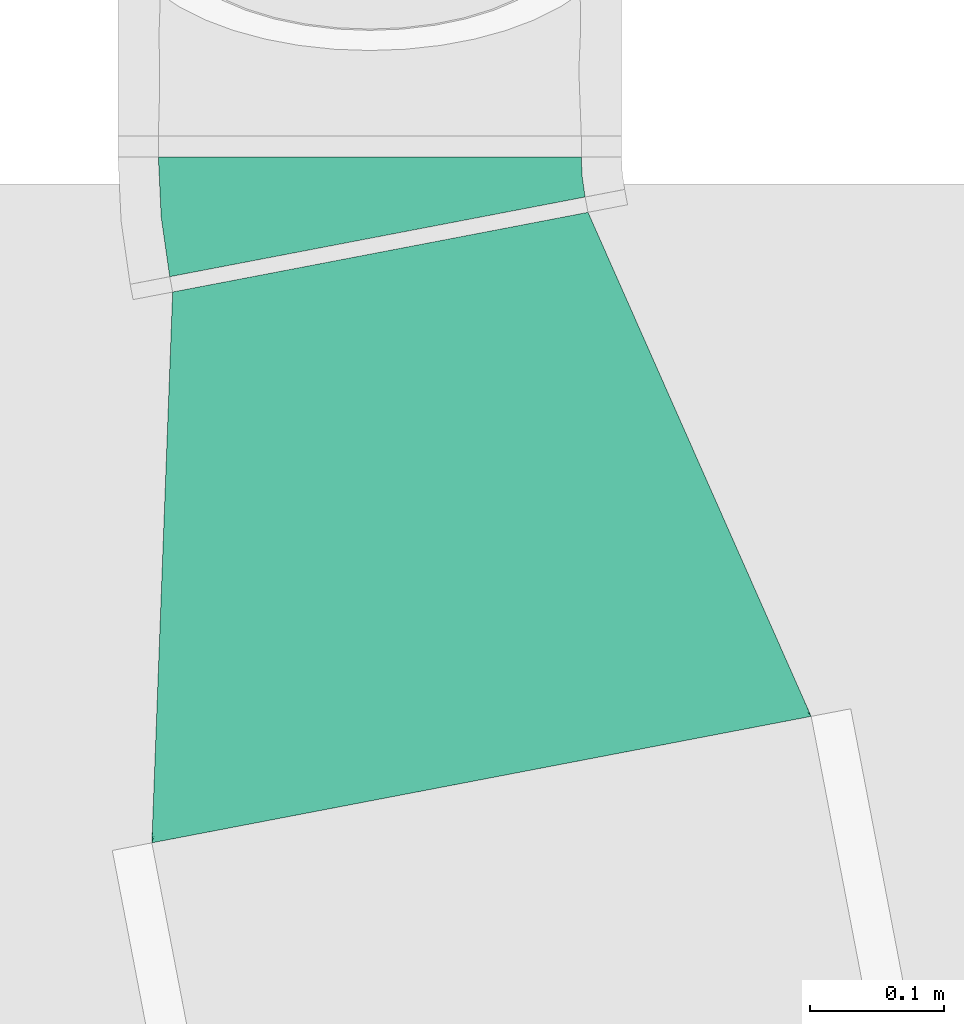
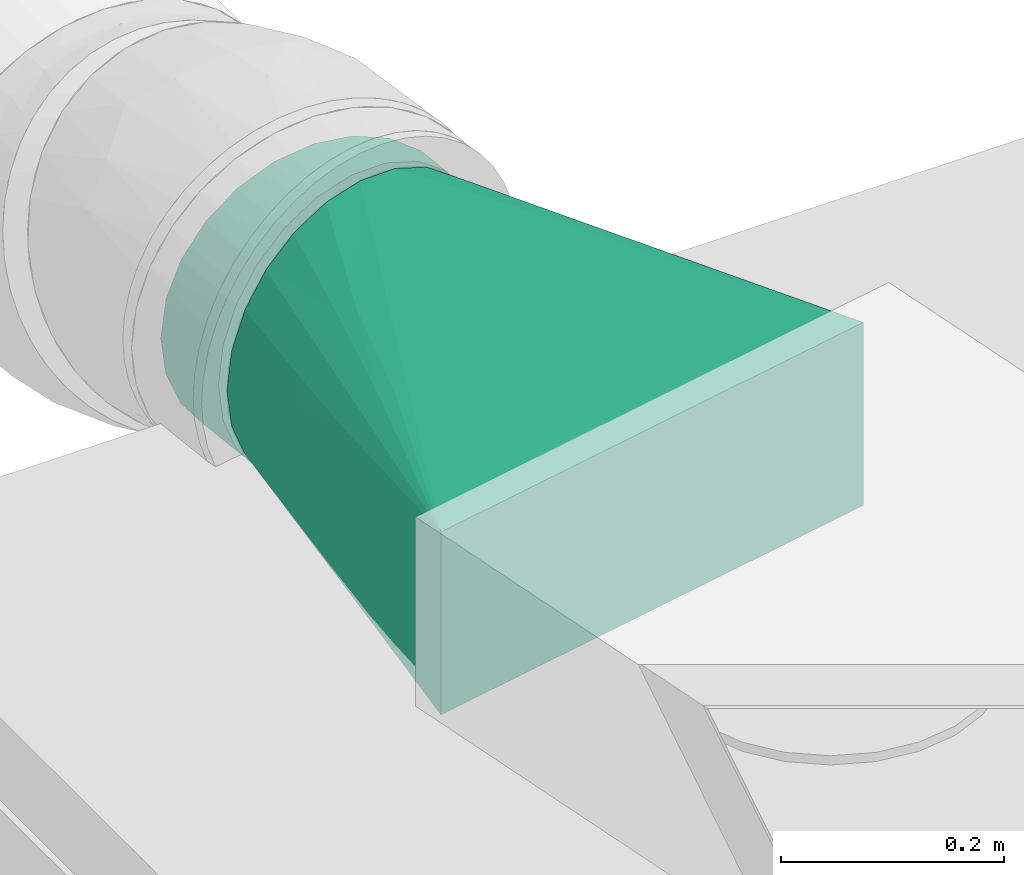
# One storey, part 14 of 21: 2 flow fittings.
"""IFC2X3 building model written with IfcOpenShell, lengths in millimetres."""

from ifc_helpers import new_model, entity, si_unit, converted_unit, derived_unit, direction, frame, origin_with_axes, place, context, subcontext, project, spatial, open_shell, surface_model, source, transform, mapped, type_object, element, save


model = new_model("IFC2X3")

# Units and contexts
model_context = context("Model", 3, precision=0.01, world=frame((0.0, 4.29681676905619e-09, 0.0)), true_north=direction((4.01073788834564e-13, 1.0)))
plan_context = context("Plan", 3, precision=0.01, world=frame((0.0, 4.29681676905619e-09, 0.0)), true_north=direction((4.01073788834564e-13, 1.0)))
body_context = subcontext(model_context, "Body", "Model", "MODEL_VIEW")
ifc_project = project(units=[converted_unit("PLANEANGLEUNIT", "DEGREE", entity("IfcPositiveLengthMeasure", 0.0174532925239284), si_unit("PLANEANGLEUNIT", "RADIAN"), dimensions=[0, 0, 0, 0, 0, 0, 0]), si_unit("AREAUNIT", "SQUARE_METRE"), si_unit("LENGTHUNIT", "METRE", prefix="MILLI"), si_unit("MASSUNIT", "GRAM", prefix="KILO"), si_unit("POWERUNIT", "WATT"), si_unit("PRESSUREUNIT", "PASCAL"), si_unit("FORCEUNIT", "NEWTON", prefix="KILO"), si_unit("ELECTRICVOLTAGEUNIT", "VOLT"), si_unit("ELECTRICCURRENTUNIT", "AMPERE"), si_unit("THERMODYNAMICTEMPERATUREUNIT", "DEGREE_CELSIUS"), si_unit("TIMEUNIT", "SECOND"), si_unit("VOLUMEUNIT", "CUBIC_METRE"), derived_unit("LINEARVELOCITYUNIT", [(si_unit("LENGTHUNIT", "METRE"), 1), (si_unit("TIMEUNIT", "SECOND"), -1)]), derived_unit("VOLUMETRICFLOWRATEUNIT", [(si_unit("VOLUMEUNIT", "CUBIC_METRE"), 1), (si_unit("TIMEUNIT", "SECOND"), -1)]), derived_unit("THERMALTRANSMITTANCEUNIT", [(si_unit("POWERUNIT", "WATT"), 1), (si_unit("THERMODYNAMICTEMPERATUREUNIT", "KELVIN"), -1), (si_unit("AREAUNIT", "SQUARE_METRE"), -1)]), derived_unit("SOUNDPRESSUREUNIT", [(si_unit("PRESSUREUNIT", "PASCAL"), 1)])], contexts=[model_context, plan_context])

# Site, building, storey
site_placement = place(None, frame((0.0, -4.29681676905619e-09, 0.0), z_axis=(0.0, 0.0, 1.0), x_axis=(1.0, 0.0, 0.0)))
site = spatial("IfcSite", under=ifc_project, at=site_placement, Name="ENGM", CompositionType="ELEMENT")
building_placement = place(site_placement, frame((0.0, 4.29681676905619e-09, 0.0), z_axis=(0.0, 0.0, 1.0), x_axis=(1.0, 0.0, 0.0)))
building = spatial("IfcBuilding", under=site, at=building_placement, Name="TI", CompositionType="ELEMENT")
storey_placement = place(building_placement, frame((0.0, 0.0, 210900.0), z_axis=(0.0, 0.0, 1.0), x_axis=(1.0, 0.0, 0.0)))
storey = spatial("IfcBuildingStorey", under=building, at=storey_placement, Name="Nivå F", CompositionType="ELEMENT", Elevation=210900.0)

# Flow fittings
duct_fitting_type_1 = type_object("IfcDuctFittingType", Name="magicirc_multi_shape_trans_001", PredefinedType="TRANSITION")
shared_shape_1 = source(origin_with_axes(), body_context, "Body", "SurfaceModel", [
    surface_model("IfcShellBasedSurfaceModel", [(400.0, -40.764, 152.14631), (400.0, -40.764, -152.12033), (400.0, 0.0, 157.51299), (400.0, -78.75, 136.41199), (400.0, -111.36932, 111.38231), (400.0, -111.36932, -111.35633), (400.0, -136.39901, 78.76299), (400.0, -152.13332, -40.75101), (400.0, -152.13332, 40.77699), (400.0, 78.75, 136.41199), (400.0, 40.764, 152.14631), (400.0, 40.764, -152.12033), (400.0, 111.36932, 111.38231), (400.0, 136.39901, -78.73701), (400.0, 136.39901, 78.76299), (400.0, 152.13332, 40.77699), (400.0, -157.5, 0.01299), (400.0, -136.39901, -78.73701), (400.0, -78.75, -136.38602), (400.0, 0.0, -157.48701), (400.0, 152.13332, -40.75101), (400.0, 157.5, 0.01299), (400.0, 78.75, -136.38602), (400.0, 111.36932, -111.35633), (0.0, -250.0, 100.0), (0.0, 250.0, 100.0), (0.0, 250.0, -100.0), (0.0, -250.0, -100.0), (292.18825, -122.15047, 128.13926), (199.05417, -181.01246, 105.66424), (185.05693, -166.81867, 118.96889), (276.97564, -110.65744, 134.46501), (276.97563, -180.59016, 64.53231), (108.09139, -182.44288, 115.54165), (162.13711, -162.82596, 121.72196), (216.18279, -114.88577, 131.0833), (216.18283, -200.00772, 45.96132), (162.13707, -210.91529, 73.63265), (108.09138, -225.00387, 72.98067), (185.05693, -199.56654, 86.22102), (292.18823, -168.55919, 81.73055), (292.18845, -168.55917, -81.7115), (199.05417, -181.01246, -105.65131), (185.05722, -199.56645, -86.20898), (276.9757, -180.59014, -64.51431), (276.97568, -110.65742, -134.44703), (108.09148, -225.00385, -72.97362), (162.13725, -210.91523, -73.6221), (216.18295, -200.00769, -45.94724), (216.18293, -114.88567, -131.06928), (162.13721, -162.82591, -121.71144), (108.09147, -182.44284, -115.53464), (185.05722, -166.81854, -118.9569), (292.18845, -122.15032, -128.12035), (292.18845, 122.15032, -128.12034), (199.05417, 181.01246, -105.65131), (185.05722, 166.81854, -118.9569), (276.9757, 110.65742, -134.44704), (276.97568, 180.59014, -64.51431), (108.09148, 182.44282, -115.53464), (162.13725, 162.82589, -121.71144), (216.18295, 114.88565, -131.06928), (216.18293, 200.0077, -45.94725), (162.13721, 210.91525, -73.6221), (108.09147, 225.00385, -72.97363), (185.05722, 199.56645, -86.20898), (292.18845, 168.55917, -81.7115), (292.18825, 168.55919, 81.73055), (199.05417, 181.01246, 105.66424), (185.05693, 199.56653, 86.22102), (276.97564, 180.59016, 64.53231), (276.97563, 110.65745, 134.46501), (108.09139, 225.00387, 72.98066), (162.13711, 210.91527, 73.63265), (216.18279, 200.00772, 45.96133), (216.18275, 114.88578, 131.08329), (162.13707, 162.82598, 121.72195), (108.09138, 182.4429, 115.54165), (185.05693, 166.81867, 118.96889), (292.18823, 122.15047, 128.13927)], [open_shell([[[0, 1, 2]], [[1, 0, 3]], [[3, 4, 5]], [[6, 5, 4]], [[7, 6, 8]], [[2, 9, 10]], [[9, 2, 11]], [[12, 13, 14]], [[15, 14, 13]], [[13, 12, 9]], [[8, 16, 7]], [[17, 5, 6]], [[18, 3, 5]], [[19, 2, 1]], [[3, 18, 1]], [[2, 19, 11]], [[15, 20, 21]], [[15, 13, 20]], [[9, 22, 23]], [[13, 9, 23]], [[22, 9, 11]], [[6, 7, 17]], [[24, 25, 26]], [[26, 27, 24]], [[28, 4, 3]], [[29, 30, 24]], [[28, 0, 31]], [[31, 0, 2]], [[16, 8, 32]], [[33, 34, 35]], [[31, 35, 34]], [[2, 35, 31]], [[24, 34, 33]], [[36, 32, 37]], [[0, 28, 3]], [[36, 16, 32]], [[31, 34, 30]], [[38, 37, 24]], [[32, 39, 37]], [[40, 4, 29]], [[36, 37, 38]], [[24, 30, 34]], [[40, 39, 32]], [[32, 8, 40]], [[39, 29, 24]], [[37, 39, 24]], [[31, 30, 28]], [[40, 8, 6]], [[30, 29, 28]], [[4, 28, 29]], [[4, 40, 6]], [[29, 39, 40]], [[24, 27, 16]], [[41, 5, 17]], [[42, 43, 27]], [[41, 7, 44]], [[44, 7, 16]], [[19, 1, 45]], [[46, 47, 48]], [[44, 48, 47]], [[16, 48, 44]], [[27, 47, 46]], [[49, 45, 50]], [[7, 41, 17]], [[49, 19, 45]], [[44, 47, 43]], [[51, 50, 27]], [[45, 52, 50]], [[53, 5, 42]], [[49, 50, 51]], [[27, 43, 47]], [[53, 52, 45]], [[45, 1, 53]], [[52, 42, 27]], [[50, 52, 27]], [[44, 43, 41]], [[53, 1, 18]], [[43, 42, 41]], [[5, 41, 42]], [[5, 53, 18]], [[42, 52, 53]], [[27, 26, 19]], [[54, 23, 22]], [[55, 56, 26]], [[54, 11, 57]], [[57, 11, 19]], [[21, 20, 58]], [[59, 60, 61]], [[57, 61, 60]], [[19, 61, 57]], [[26, 60, 59]], [[62, 58, 63]], [[11, 54, 22]], [[62, 21, 58]], [[57, 60, 56]], [[64, 63, 26]], [[58, 65, 63]], [[66, 23, 55]], [[62, 63, 64]], [[26, 56, 60]], [[66, 65, 58]], [[58, 20, 66]], [[65, 55, 26]], [[63, 65, 26]], [[57, 56, 54]], [[66, 20, 13]], [[56, 55, 54]], [[23, 54, 55]], [[23, 66, 13]], [[55, 65, 66]], [[26, 25, 21]], [[67, 12, 14]], [[68, 69, 25]], [[67, 15, 70]], [[70, 15, 21]], [[2, 10, 71]], [[72, 73, 74]], [[70, 74, 73]], [[21, 74, 70]], [[25, 73, 72]], [[75, 71, 76]], [[15, 67, 14]], [[75, 2, 71]], [[70, 73, 69]], [[77, 76, 25]], [[71, 78, 76]], [[79, 12, 68]], [[75, 76, 77]], [[25, 69, 73]], [[79, 78, 71]], [[71, 10, 79]], [[78, 68, 25]], [[76, 78, 25]], [[70, 69, 67]], [[79, 10, 9]], [[69, 68, 67]], [[12, 67, 68]], [[12, 79, 9]], [[68, 78, 79]], [[25, 24, 2]]])]),
])
flow_fitting_1_placement = place(storey_placement, frame((607402.98574, 690791.51807, 2556.76615000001), z_axis=(5.0821976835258e-21, 1.5999999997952e-05, 0.999999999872), x_axis=(-0.18840604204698, 0.982091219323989, -1.57134595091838e-05)))
element("IfcFlowFitting", 1, at=flow_fitting_1_placement, inside=storey, type_object=duct_fitting_type_1, Name="magicirc_multi_shape_trans_001", context=body_context, shape_type="MappedRepresentation", body=[
    mapped(shared_shape_1, transform((0.0, 0.0, 0.0), scale=1.0)),
])
duct_fitting_type_2 = type_object("IfcDuctFittingType", Name="magicirc_elbow_full_radius_001", PredefinedType="BEND")
shared_shape_2 = source(origin_with_axes(), body_context, "Body", "SurfaceModel", [
    surface_model("IfcShellBasedSurfaceModel", [(-29.94205, 78.75, -136.39901), (-29.94205, 40.764, -152.13332), (-29.94205, 0.0, -157.5), (-29.94205, 136.39901, -78.75), (-29.94205, -40.764, -152.13332), (-29.94205, 111.36932, -111.36932), (-29.94205, -157.5, 0.0), (-29.94205, -152.13332, 40.764), (-29.94205, -111.36932, -111.36932), (-29.94205, -152.13332, -40.764), (-29.94205, -78.75, -136.39901), (-29.94205, -136.39901, -78.75), (-29.94205, 152.13332, -40.764), (-29.94205, 157.5, 0.0), (-29.94205, 152.13332, 40.764), (-29.94205, 136.39901, 78.75), (-29.94205, 111.36932, 111.36932), (-29.94205, 78.75, 136.39901), (-29.94205, 40.764, 152.13332), (-29.94205, -111.36932, 111.36932), (-29.94205, -78.75, 136.39901), (-29.94205, -136.39901, 78.75), (-29.94205, 0.0, 157.5), (-29.94205, -40.764, 152.13332), (29.40582, 5.64126, -157.5), (21.72564, 45.67523, -152.13332), (14.56886, 82.98095, -136.39901), (37.086, -34.39271, -152.13332), (3.70744, 139.59752, -78.75), (0.743, 155.05006, -40.764), (8.42318, 115.01609, -111.36932), (44.24279, -71.69843, -136.39901), (59.07976, -149.03811, 0.0), (50.38847, -103.73358, -111.36932), (58.06864, -143.76754, -40.764), (55.10421, -128.31501, -78.75), (58.06864, -143.76754, 40.764), (8.42318, 115.01609, 111.36932), (-0.26811, 160.32063, 0.0), (0.743, 155.05006, 40.764), (3.70744, 139.59752, 78.75), (14.56886, 82.98095, 136.39901), (21.72564, 45.67523, 152.13332), (44.24279, -71.69843, 136.39901), (55.10421, -128.31501, 78.75), (50.38847, -103.73358, 111.36932), (29.40582, 5.64126, 157.5), (37.086, -34.39271, 152.13332), (-15.0382, 158.20675, 0.0), (14.76949, -155.37978, 0.0)], [open_shell([[[0, 1, 2]], [[3, 0, 2]], [[4, 3, 2]], [[5, 0, 3]], [[3, 6, 7]], [[8, 9, 10]], [[4, 10, 6]], [[11, 9, 8]], [[6, 10, 9]], [[6, 3, 4]], [[7, 12, 3]], [[13, 7, 14]], [[15, 14, 16]], [[17, 16, 7]], [[7, 16, 14]], [[7, 18, 17]], [[19, 20, 21]], [[7, 21, 22]], [[23, 22, 20]], [[21, 20, 22]], [[22, 18, 7]], [[12, 7, 13]], [[24, 25, 26]], [[27, 24, 26]], [[28, 29, 26]], [[28, 26, 30]], [[31, 26, 29]], [[31, 32, 33]], [[31, 27, 26]], [[33, 34, 35]], [[34, 33, 32]], [[31, 36, 32]], [[31, 29, 36]], [[37, 38, 39]], [[37, 39, 40]], [[37, 41, 42]], [[38, 37, 43]], [[43, 37, 42]], [[44, 43, 45]], [[44, 36, 38]], [[43, 46, 47]], [[43, 44, 38]], [[46, 43, 42]], [[38, 36, 29]], [[45, 20, 19]], [[19, 21, 44]], [[20, 47, 23]], [[42, 18, 22]], [[22, 23, 46]], [[36, 21, 7]], [[15, 16, 40]], [[17, 37, 16]], [[48, 14, 39]], [[48, 13, 14]], [[39, 14, 15]], [[41, 17, 18]], [[7, 6, 49]], [[43, 47, 20]], [[20, 45, 43]], [[47, 46, 23]], [[21, 36, 44]], [[19, 44, 45]], [[36, 49, 32]], [[40, 39, 15]], [[38, 48, 39]], [[41, 18, 42]], [[17, 41, 37]], [[40, 16, 37]], [[42, 22, 46]], [[7, 49, 36]], [[1, 25, 2]], [[27, 4, 2]], [[28, 5, 3]], [[5, 30, 0]], [[0, 26, 1]], [[12, 29, 3]], [[49, 6, 9]], [[34, 49, 9]], [[33, 8, 10]], [[9, 11, 34]], [[8, 35, 11]], [[31, 10, 4]], [[12, 13, 48]], [[48, 38, 29]], [[29, 28, 3]], [[0, 30, 26]], [[1, 26, 25]], [[5, 28, 30]], [[25, 24, 2]], [[31, 4, 27]], [[33, 10, 31]], [[11, 35, 34]], [[34, 32, 49]], [[35, 8, 33]], [[24, 27, 2]], [[12, 48, 29]]])]),
])
flow_fitting_2_placement = place(storey_placement, frame((607319.79165, 691225.17878, 2556.77914), z_axis=(0.00129100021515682, 0.0, 0.999999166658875), x_axis=(0.0, -1.0, 0.0)))
element("IfcFlowFitting", 2, at=flow_fitting_2_placement, inside=storey, type_object=duct_fitting_type_2, Name="magicirc_elbow_full_radius_001", context=body_context, shape_type="MappedRepresentation", body=[
    mapped(shared_shape_2, transform((0.0, 0.0, 0.0), scale=1.0)),
])

save(model, "model.ifc")
